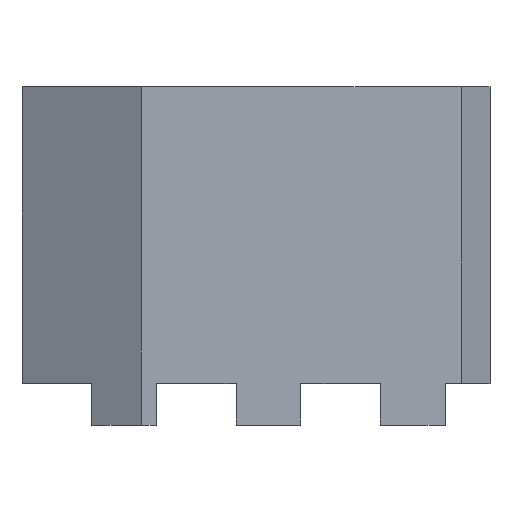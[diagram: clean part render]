
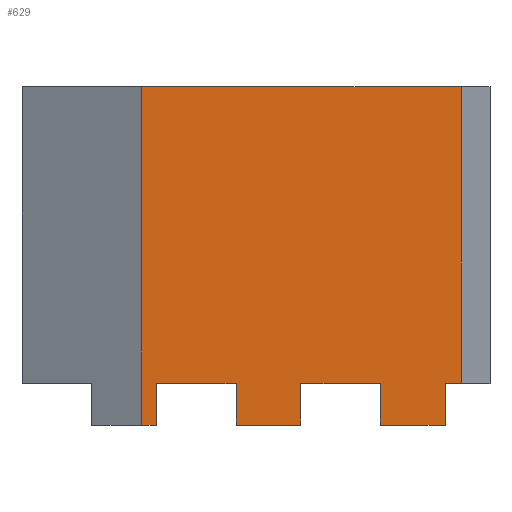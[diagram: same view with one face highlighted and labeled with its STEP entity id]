
A CAD part, top view. The second image highlights one B-rep face of the part: STEP entity #629.
In plain terms, the highlighted planar face has unit normal (0, 0, 1).
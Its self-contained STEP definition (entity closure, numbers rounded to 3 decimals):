
#6 = DIRECTION ( 'NONE',  ( 0., -1., 0. ) ) ;
#8 = VECTOR ( 'NONE', #569, 1000. ) ;
#16 = CARTESIAN_POINT ( 'NONE',  ( 29., 0., 9. ) ) ;
#18 = FACE_OUTER_BOUND ( 'NONE', #74, .T. ) ;
#21 = ORIENTED_EDGE ( 'NONE', *, *, #314, .F. ) ;
#23 = EDGE_CURVE ( 'NONE', #528, #577, #208, .T. ) ;
#34 = EDGE_CURVE ( 'NONE', #139, #50, #662, .T. ) ;
#37 = DIRECTION ( 'NONE',  ( 0., -1., 0. ) ) ;
#39 = CARTESIAN_POINT ( 'NONE',  ( 14.5, 4.2, 9. ) ) ;
#50 = VERTEX_POINT ( 'NONE', #590 ) ;
#52 = EDGE_CURVE ( 'NONE', #187, #183, #309, .T. ) ;
#60 = CARTESIAN_POINT ( 'NONE',  ( 35.5, 0., 9. ) ) ;
#73 = CARTESIAN_POINT ( 'NONE',  ( 6.5, 4.2, 9. ) ) ;
#74 = EDGE_LOOP ( 'NONE', ( #505, #653, #292, #98, #170, #462, #21, #358, #407, #690, #317, #729, #322, #289 ) ) ;
#76 = LINE ( 'NONE', #85, #235 ) ;
#85 = CARTESIAN_POINT ( 'NONE',  ( 35.5, 4.2, 9. ) ) ;
#98 = ORIENTED_EDGE ( 'NONE', *, *, #23, .T. ) ;
#115 = CARTESIAN_POINT ( 'NONE',  ( 0., 0., 9. ) ) ;
#124 = LINE ( 'NONE', #347, #213 ) ;
#127 = DIRECTION ( 'NONE',  ( -1., 0., 0. ) ) ;
#134 = VECTOR ( 'NONE', #162, 1000. ) ;
#139 = VERTEX_POINT ( 'NONE', #450 ) ;
#144 = VECTOR ( 'NONE', #265, 1000. ) ;
#145 = VECTOR ( 'NONE', #425, 1000. ) ;
#153 = CARTESIAN_POINT ( 'NONE',  ( 0., 0., 9. ) ) ;
#162 = DIRECTION ( 'NONE',  ( 1., 0., 0. ) ) ;
#167 = VECTOR ( 'NONE', #127, 1000. ) ;
#170 = ORIENTED_EDGE ( 'NONE', *, *, #174, .T. ) ;
#171 = CARTESIAN_POINT ( 'NONE',  ( 21., 4.2, 9. ) ) ;
#174 = EDGE_CURVE ( 'NONE', #577, #183, #395, .T. ) ;
#183 = VERTEX_POINT ( 'NONE', #611 ) ;
#187 = VERTEX_POINT ( 'NONE', #73 ) ;
#188 = CARTESIAN_POINT ( 'NONE',  ( 21., 4.2, 9. ) ) ;
#190 = VERTEX_POINT ( 'NONE', #240 ) ;
#196 = CARTESIAN_POINT ( 'NONE',  ( 29., 0., 9. ) ) ;
#203 = VECTOR ( 'NONE', #207, 1000. ) ;
#207 = DIRECTION ( 'NONE',  ( 0., 1., 0. ) ) ;
#208 = LINE ( 'NONE', #263, #144 ) ;
#213 = VECTOR ( 'NONE', #570, 1000. ) ;
#219 = PLANE ( 'NONE',  #369 ) ;
#235 = VECTOR ( 'NONE', #644, 1000. ) ;
#240 = CARTESIAN_POINT ( 'NONE',  ( 29., 4.2, 9. ) ) ;
#248 = VECTOR ( 'NONE', #37, 1000. ) ;
#251 = EDGE_CURVE ( 'NONE', #546, #451, #76, .T. ) ;
#257 = DIRECTION ( 'NONE',  ( 0., 0., -1. ) ) ;
#263 = CARTESIAN_POINT ( 'NONE',  ( 5., 0., 9. ) ) ;
#265 = DIRECTION ( 'NONE',  ( 0., -1., 0. ) ) ;
#289 = ORIENTED_EDGE ( 'NONE', *, *, #547, .F. ) ;
#290 = LINE ( 'NONE', #171, #8 ) ;
#292 = ORIENTED_EDGE ( 'NONE', *, *, #573, .T. ) ;
#294 = DIRECTION ( 'NONE',  ( 0., 1., 0. ) ) ;
#300 = DIRECTION ( 'NONE',  ( -1., 0., 0. ) ) ;
#302 = VERTEX_POINT ( 'NONE', #456 ) ;
#309 = LINE ( 'NONE', #533, #248 ) ;
#314 = EDGE_CURVE ( 'NONE', #479, #187, #586, .T. ) ;
#317 = ORIENTED_EDGE ( 'NONE', *, *, #548, .F. ) ;
#319 = VECTOR ( 'NONE', #6, 1000. ) ;
#320 = DIRECTION ( 'NONE',  ( 1., 0., 0. ) ) ;
#322 = ORIENTED_EDGE ( 'NONE', *, *, #541, .T. ) ;
#341 = EDGE_CURVE ( 'NONE', #139, #479, #124, .T. ) ;
#347 = CARTESIAN_POINT ( 'NONE',  ( 14.5, 0., 9. ) ) ;
#350 = LINE ( 'NONE', #575, #203 ) ;
#352 = CARTESIAN_POINT ( 'NONE',  ( 5., 34., 9. ) ) ;
#358 = ORIENTED_EDGE ( 'NONE', *, *, #341, .F. ) ;
#359 = EDGE_CURVE ( 'NONE', #420, #190, #511, .T. ) ;
#362 = CARTESIAN_POINT ( 'NONE',  ( 21., 0., 9. ) ) ;
#365 = EDGE_CURVE ( 'NONE', #546, #725, #350, .T. ) ;
#367 = CARTESIAN_POINT ( 'NONE',  ( 37.113, 34., 9. ) ) ;
#369 = AXIS2_PLACEMENT_3D ( 'NONE', #416, #257, #300 ) ;
#395 = LINE ( 'NONE', #624, #134 ) ;
#407 = ORIENTED_EDGE ( 'NONE', *, *, #34, .T. ) ;
#413 = VECTOR ( 'NONE', #574, 1000. ) ;
#416 = CARTESIAN_POINT ( 'NONE',  ( 0., 0., 9. ) ) ;
#420 = VERTEX_POINT ( 'NONE', #196 ) ;
#425 = DIRECTION ( 'NONE',  ( 0., -1., 0. ) ) ;
#450 = CARTESIAN_POINT ( 'NONE',  ( 14.5, 0., 9. ) ) ;
#451 = VERTEX_POINT ( 'NONE', #648 ) ;
#455 = CARTESIAN_POINT ( 'NONE',  ( 0., 34., 9. ) ) ;
#456 = CARTESIAN_POINT ( 'NONE',  ( 35.5, 0., 9. ) ) ;
#459 = CARTESIAN_POINT ( 'NONE',  ( 37.113, 4.2, 9. ) ) ;
#462 = ORIENTED_EDGE ( 'NONE', *, *, #52, .F. ) ;
#473 = VECTOR ( 'NONE', #294, 1000. ) ;
#479 = VERTEX_POINT ( 'NONE', #39 ) ;
#502 = DIRECTION ( 'NONE',  ( 1., 0., 0. ) ) ;
#505 = ORIENTED_EDGE ( 'NONE', *, *, #251, .F. ) ;
#511 = LINE ( 'NONE', #16, #473 ) ;
#528 = VERTEX_POINT ( 'NONE', #352 ) ;
#531 = LINE ( 'NONE', #362, #145 ) ;
#533 = CARTESIAN_POINT ( 'NONE',  ( 6.5, 0., 9. ) ) ;
#541 = EDGE_CURVE ( 'NONE', #420, #302, #691, .T. ) ;
#546 = VERTEX_POINT ( 'NONE', #459 ) ;
#547 = EDGE_CURVE ( 'NONE', #451, #302, #696, .T. ) ;
#548 = EDGE_CURVE ( 'NONE', #190, #640, #290, .T. ) ;
#569 = DIRECTION ( 'NONE',  ( -1., 0., 0. ) ) ;
#570 = DIRECTION ( 'NONE',  ( 0., 1., 0. ) ) ;
#573 = EDGE_CURVE ( 'NONE', #725, #528, #618, .T. ) ;
#574 = DIRECTION ( 'NONE',  ( -1., 0., 0. ) ) ;
#575 = CARTESIAN_POINT ( 'NONE',  ( 37.113, 0., 9. ) ) ;
#577 = VERTEX_POINT ( 'NONE', #683 ) ;
#586 = LINE ( 'NONE', #702, #167 ) ;
#590 = CARTESIAN_POINT ( 'NONE',  ( 21., 0., 9. ) ) ;
#611 = CARTESIAN_POINT ( 'NONE',  ( 6.5, 0., 9. ) ) ;
#614 = VECTOR ( 'NONE', #320, 1000. ) ;
#618 = LINE ( 'NONE', #455, #413 ) ;
#624 = CARTESIAN_POINT ( 'NONE',  ( 0., 0., 9. ) ) ;
#629 = ADVANCED_FACE ( 'NONE', ( #18 ), #219, .F. ) ;
#640 = VERTEX_POINT ( 'NONE', #188 ) ;
#641 = VECTOR ( 'NONE', #502, 1000. ) ;
#644 = DIRECTION ( 'NONE',  ( -1., 0., 0. ) ) ;
#648 = CARTESIAN_POINT ( 'NONE',  ( 35.5, 4.2, 9. ) ) ;
#653 = ORIENTED_EDGE ( 'NONE', *, *, #365, .T. ) ;
#662 = LINE ( 'NONE', #153, #614 ) ;
#683 = CARTESIAN_POINT ( 'NONE',  ( 5., 0., 9. ) ) ;
#687 = EDGE_CURVE ( 'NONE', #640, #50, #531, .T. ) ;
#690 = ORIENTED_EDGE ( 'NONE', *, *, #687, .F. ) ;
#691 = LINE ( 'NONE', #115, #641 ) ;
#696 = LINE ( 'NONE', #60, #319 ) ;
#702 = CARTESIAN_POINT ( 'NONE',  ( 6.5, 4.2, 9. ) ) ;
#725 = VERTEX_POINT ( 'NONE', #367 ) ;
#729 = ORIENTED_EDGE ( 'NONE', *, *, #359, .F. ) ;
